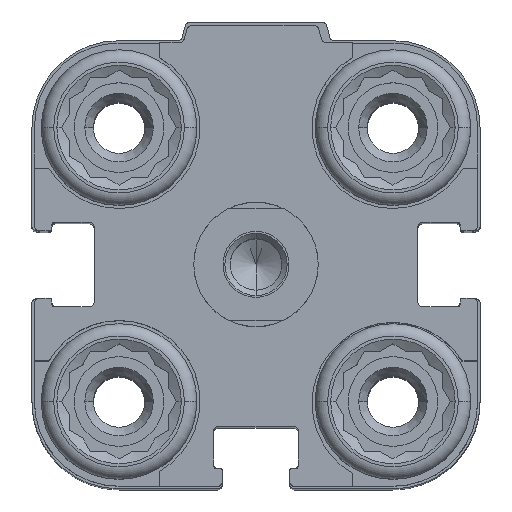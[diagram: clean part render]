
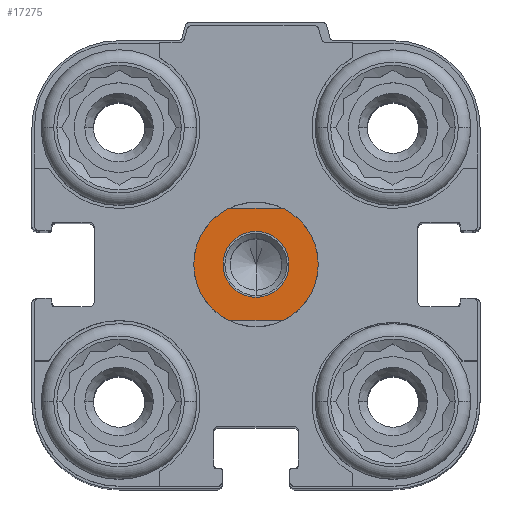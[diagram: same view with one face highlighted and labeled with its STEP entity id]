
A CAD part, top view. The second image highlights one B-rep face of the part: STEP entity #17275.
In plain terms, the highlighted planar face has unit normal (0, 0, 1).
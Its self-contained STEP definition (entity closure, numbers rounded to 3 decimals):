
#56 = VERTEX_POINT ( 'NONE', #10391 ) ;
#287 = AXIS2_PLACEMENT_3D ( 'NONE', #942, #2667, #6853 ) ;
#572 = AXIS2_PLACEMENT_3D ( 'NONE', #2603, #8418, #1166 ) ;
#712 = CARTESIAN_POINT ( 'NONE',  ( 0., 0., 4.5 ) ) ;
#942 = CARTESIAN_POINT ( 'NONE',  ( 0., 0., 4.5 ) ) ;
#952 = ORIENTED_EDGE ( 'NONE', *, *, #13241, .T. ) ;
#1166 = DIRECTION ( 'NONE',  ( 0., 1., 0. ) ) ;
#2425 = DIRECTION ( 'NONE',  ( 0., 1., 0. ) ) ;
#2603 = CARTESIAN_POINT ( 'NONE',  ( 0., 0., 4.5 ) ) ;
#2667 = DIRECTION ( 'NONE',  ( 0., 0., -1. ) ) ;
#2679 = DIRECTION ( 'NONE',  ( -1., 0., 0. ) ) ;
#3094 = LINE ( 'NONE', #10146, #10714 ) ;
#3213 = ORIENTED_EDGE ( 'NONE', *, *, #7332, .F. ) ;
#3228 = EDGE_CURVE ( 'NONE', #13801, #18636, #13788, .T. ) ;
#3405 = DIRECTION ( 'NONE',  ( -1., 0., 0. ) ) ;
#3641 = CIRCLE ( 'NONE', #572, 2.65 ) ;
#4422 = DIRECTION ( 'NONE',  ( 1., 0., 0. ) ) ;
#4487 = CARTESIAN_POINT ( 'NONE',  ( -2.179, 4.5, 4.5 ) ) ;
#5236 = EDGE_CURVE ( 'NONE', #56, #15898, #12214, .T. ) ;
#5484 = FACE_BOUND ( 'NONE', #10630, .T. ) ;
#5755 = CARTESIAN_POINT ( 'NONE',  ( 0., 0., 4.5 ) ) ;
#6014 = ORIENTED_EDGE ( 'NONE', *, *, #17586, .F. ) ;
#6037 = AXIS2_PLACEMENT_3D ( 'NONE', #9831, #16621, #2679 ) ;
#6562 = ORIENTED_EDGE ( 'NONE', *, *, #5236, .F. ) ;
#6640 = AXIS2_PLACEMENT_3D ( 'NONE', #7152, #13263, #10398 ) ;
#6853 = DIRECTION ( 'NONE',  ( -1., 0., 0. ) ) ;
#7152 = CARTESIAN_POINT ( 'NONE',  ( 0., 0., 4.5 ) ) ;
#7332 = EDGE_CURVE ( 'NONE', #18740, #56, #13007, .T. ) ;
#7347 = EDGE_CURVE ( 'NONE', #7772, #11881, #3094, .T. ) ;
#7772 = VERTEX_POINT ( 'NONE', #12886 ) ;
#8292 = AXIS2_PLACEMENT_3D ( 'NONE', #5755, #9771, #2425 ) ;
#8418 = DIRECTION ( 'NONE',  ( 0., 0., -1. ) ) ;
#8676 = CARTESIAN_POINT ( 'NONE',  ( -5., 0., 4.5 ) ) ;
#8909 = CARTESIAN_POINT ( 'NONE',  ( -9., 4.5, 4.5 ) ) ;
#9131 = DIRECTION ( 'NONE',  ( 0., 0., -1. ) ) ;
#9278 = EDGE_LOOP ( 'NONE', ( #3213, #9533, #15036, #16447, #6014, #6562 ) ) ;
#9417 = DIRECTION ( 'NONE',  ( 0., 0., -1. ) ) ;
#9533 = ORIENTED_EDGE ( 'NONE', *, *, #9836, .F. ) ;
#9771 = DIRECTION ( 'NONE',  ( 0., 0., -1. ) ) ;
#9831 = CARTESIAN_POINT ( 'NONE',  ( 0., 0., 4.5 ) ) ;
#9836 = EDGE_CURVE ( 'NONE', #10849, #18740, #14763, .T. ) ;
#9887 = AXIS2_PLACEMENT_3D ( 'NONE', #13509, #9131, #3405 ) ;
#10146 = CARTESIAN_POINT ( 'NONE',  ( 9., -4.5, 4.5 ) ) ;
#10391 = CARTESIAN_POINT ( 'NONE',  ( 2.179, 4.5, 4.5 ) ) ;
#10398 = DIRECTION ( 'NONE',  ( -1., 0., 0. ) ) ;
#10630 = EDGE_LOOP ( 'NONE', ( #10902, #952 ) ) ;
#10714 = VECTOR ( 'NONE', #17571, 1000. ) ;
#10849 = VERTEX_POINT ( 'NONE', #8676 ) ;
#10902 = ORIENTED_EDGE ( 'NONE', *, *, #3228, .T. ) ;
#11204 = FACE_OUTER_BOUND ( 'NONE', #9278, .T. ) ;
#11300 = PLANE ( 'NONE',  #17593 ) ;
#11881 = VERTEX_POINT ( 'NONE', #14209 ) ;
#12153 = CARTESIAN_POINT ( 'NONE',  ( 5., 0., 4.5 ) ) ;
#12214 = CIRCLE ( 'NONE', #287, 5. ) ;
#12886 = CARTESIAN_POINT ( 'NONE',  ( 2.179, -4.5, 4.5 ) ) ;
#13007 = LINE ( 'NONE', #8909, #18622 ) ;
#13241 = EDGE_CURVE ( 'NONE', #18636, #13801, #3641, .T. ) ;
#13263 = DIRECTION ( 'NONE',  ( 0., 0., -1. ) ) ;
#13509 = CARTESIAN_POINT ( 'NONE',  ( 0., 0., 4.5 ) ) ;
#13788 = CIRCLE ( 'NONE', #8292, 2.65 ) ;
#13801 = VERTEX_POINT ( 'NONE', #18086 ) ;
#14209 = CARTESIAN_POINT ( 'NONE',  ( -2.179, -4.5, 4.5 ) ) ;
#14763 = CIRCLE ( 'NONE', #9887, 5. ) ;
#15036 = ORIENTED_EDGE ( 'NONE', *, *, #18736, .F. ) ;
#15225 = DIRECTION ( 'NONE',  ( 0., 1., 0. ) ) ;
#15898 = VERTEX_POINT ( 'NONE', #12153 ) ;
#16087 = CIRCLE ( 'NONE', #6640, 5. ) ;
#16447 = ORIENTED_EDGE ( 'NONE', *, *, #7347, .F. ) ;
#16621 = DIRECTION ( 'NONE',  ( 0., 0., -1. ) ) ;
#17275 = ADVANCED_FACE ( 'NONE', ( #11204, #5484 ), #11300, .F. ) ;
#17571 = DIRECTION ( 'NONE',  ( -1., 0., 0. ) ) ;
#17586 = EDGE_CURVE ( 'NONE', #15898, #7772, #17608, .T. ) ;
#17593 = AXIS2_PLACEMENT_3D ( 'NONE', #712, #9417, #15225 ) ;
#17608 = CIRCLE ( 'NONE', #6037, 5. ) ;
#18086 = CARTESIAN_POINT ( 'NONE',  ( 0., 2.65, 4.5 ) ) ;
#18593 = CARTESIAN_POINT ( 'NONE',  ( 0., -2.65, 4.5 ) ) ;
#18622 = VECTOR ( 'NONE', #4422, 1000. ) ;
#18636 = VERTEX_POINT ( 'NONE', #18593 ) ;
#18736 = EDGE_CURVE ( 'NONE', #11881, #10849, #16087, .T. ) ;
#18740 = VERTEX_POINT ( 'NONE', #4487 ) ;
